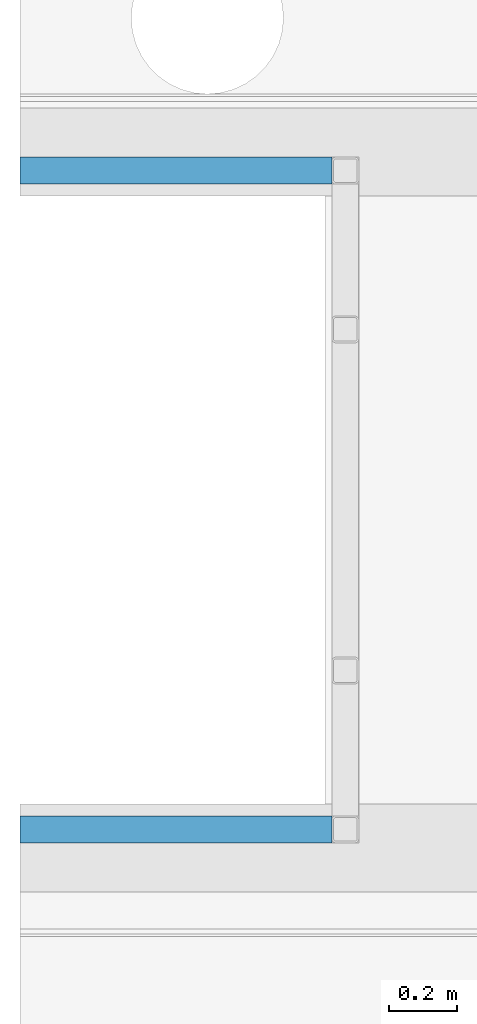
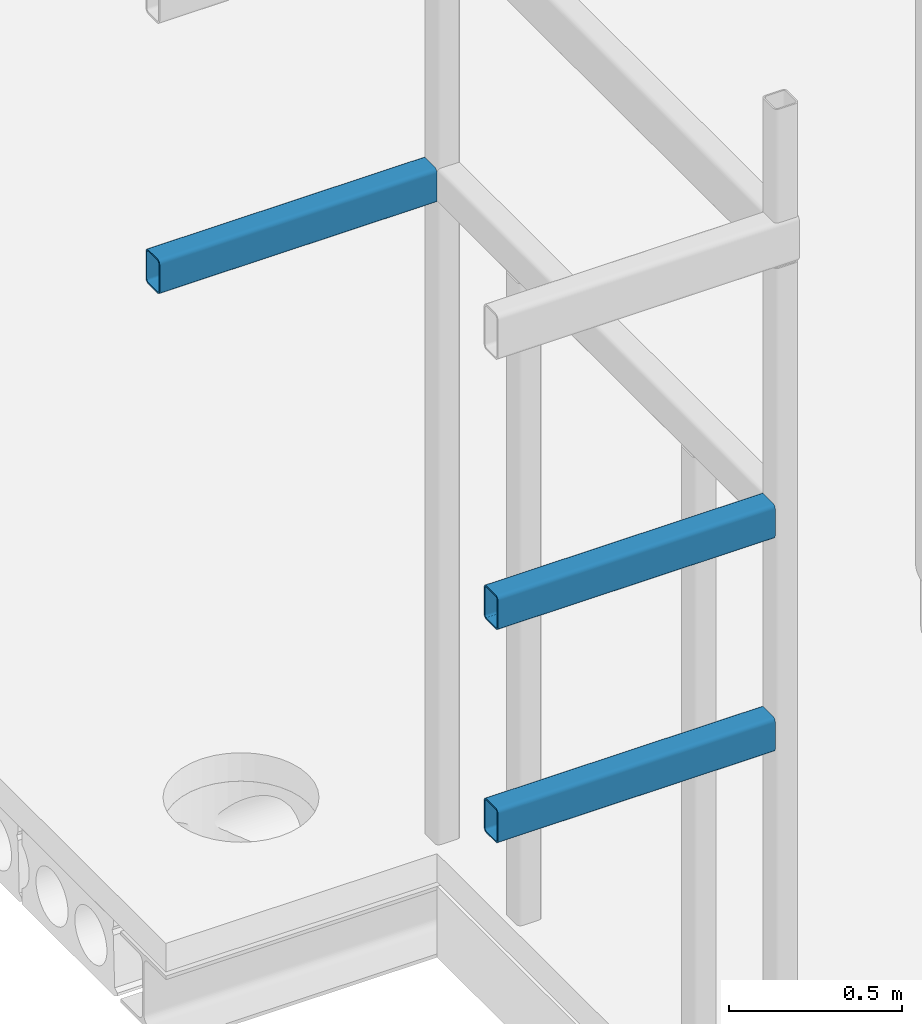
# One storey, part 30 of 34: 3 beams.
"""IFC2X3 building model written with IfcOpenShell, lengths in millimetres."""

from ifc_helpers import new_model, entity, si_unit, converted_unit, derived_unit, direction, frame, origin_with_axes, place, context, subcontext, project, spatial, faceted_brep, type_object, element, save


model = new_model("IFC2X3")

# Units and contexts
model_context = context("Model", 3, precision=0.01, world=frame((0.0, 4.29681676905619e-09, 0.0)), true_north=direction((4.01073788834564e-13, 1.0)))
plan_context = context("Plan", 3, precision=0.01, world=frame((0.0, 4.29681676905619e-09, 0.0)), true_north=direction((4.01073788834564e-13, 1.0)))
body_context = subcontext(model_context, "Body", "Model", "MODEL_VIEW")
ifc_project = project(units=[converted_unit("PLANEANGLEUNIT", "DEGREE", entity("IfcPositiveLengthMeasure", 0.0174532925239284), si_unit("PLANEANGLEUNIT", "RADIAN"), dimensions=[0, 0, 0, 0, 0, 0, 0]), si_unit("AREAUNIT", "SQUARE_METRE"), si_unit("LENGTHUNIT", "METRE", prefix="MILLI"), si_unit("MASSUNIT", "GRAM", prefix="KILO"), si_unit("POWERUNIT", "WATT"), si_unit("PRESSUREUNIT", "PASCAL"), si_unit("FORCEUNIT", "NEWTON", prefix="KILO"), si_unit("ELECTRICVOLTAGEUNIT", "VOLT"), si_unit("ELECTRICCURRENTUNIT", "AMPERE"), si_unit("THERMODYNAMICTEMPERATUREUNIT", "DEGREE_CELSIUS"), si_unit("TIMEUNIT", "SECOND"), si_unit("VOLUMEUNIT", "CUBIC_METRE"), derived_unit("LINEARVELOCITYUNIT", [(si_unit("LENGTHUNIT", "METRE"), 1), (si_unit("TIMEUNIT", "SECOND"), -1)]), derived_unit("VOLUMETRICFLOWRATEUNIT", [(si_unit("VOLUMEUNIT", "CUBIC_METRE"), 1), (si_unit("TIMEUNIT", "SECOND"), -1)]), derived_unit("THERMALTRANSMITTANCEUNIT", [(si_unit("POWERUNIT", "WATT"), 1), (si_unit("THERMODYNAMICTEMPERATUREUNIT", "KELVIN"), -1), (si_unit("AREAUNIT", "SQUARE_METRE"), -1)]), derived_unit("SOUNDPRESSUREUNIT", [(si_unit("PRESSUREUNIT", "PASCAL"), 1)])], contexts=[model_context, plan_context])

# Site, building, storey
site_placement = place(None, frame((0.0, -4.29681676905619e-09, 0.0), z_axis=(0.0, 0.0, 1.0), x_axis=(1.0, 0.0, 0.0)))
site = spatial("IfcSite", under=ifc_project, at=site_placement, Name="Gardermoen", CompositionType="ELEMENT")
building_placement = place(site_placement, frame((0.0, 4.29681676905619e-09, 0.0), z_axis=(0.0, 0.0, 1.0), x_axis=(1.0, 0.0, 0.0)))
building = spatial("IfcBuilding", under=site, at=building_placement, Name="TH", CompositionType="ELEMENT")
storey_placement = place(building_placement, origin_with_axes())
storey = spatial("IfcBuildingStorey", under=building, at=storey_placement, Name="F", CompositionType="ELEMENT", Elevation=0.0)

# Beams
beam_type = type_object("IfcBeamType", Name="RHS120*80*5", PredefinedType="NOTDEFINED")
beam_1_placement = place(storey_placement, frame((893539.999766, 480345.0, 212450.0), z_axis=(0.0, 0.0, 1.0), x_axis=(1.0, 0.0, 0.0)))
element("IfcBeam", 1, at=beam_1_placement, inside=storey, type_object=beam_type, Name="STÅLBJELKE", ObjectType="RHS120*80*5", context=body_context, shape_type="Brep", body=[
    faceted_brep([(1571.90640257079, -27.5, -55.0), (1571.90640257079, 27.5, -55.0), (2495.0, 27.5, -55.0), (2495.0, -27.5, -55.0), (1571.90640257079, 28.963177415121, -54.8558896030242), (2495.0, 28.963177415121, -54.8558896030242), (1571.90640257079, 30.3701257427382, -54.4290964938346), (2495.0, 30.3701257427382, -54.4290964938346), (1571.90640257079, 31.666776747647, -53.7360220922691), (2495.0, 31.666776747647, -53.7360220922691), (1571.90640257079, 32.8033008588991, -52.8033008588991), (2495.0, 32.8033008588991, -52.8033008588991), (1571.90640257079, 33.7360220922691, -51.666776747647), (2495.0, 33.7360220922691, -51.666776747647), (1571.90640257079, 34.4290964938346, -50.3701257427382), (2495.0, 34.4290964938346, -50.3701257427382), (1571.90640257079, 34.8558896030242, -48.963177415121), (2495.0, 34.8558896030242, -48.963177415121), (1571.90640257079, 35.0, -47.5), (2495.0, 35.0, -47.5), (1571.90640257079, 35.0, 47.5), (2495.0, 35.0, 47.5), (1571.90640257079, 34.8558896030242, 48.963177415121), (2495.0, 34.8558896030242, 48.963177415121), (1571.90640257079, 34.4290964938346, 50.3701257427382), (2495.0, 34.4290964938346, 50.3701257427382), (1571.90640257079, 33.7360220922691, 51.666776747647), (2495.0, 33.7360220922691, 51.666776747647), (1571.90640257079, 32.8033008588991, 52.8033008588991), (2495.0, 32.8033008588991, 52.8033008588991), (1571.90640257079, 31.666776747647, 53.7360220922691), (2495.0, 31.666776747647, 53.7360220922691), (1571.90640257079, 30.3701257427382, 54.4290964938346), (2495.0, 30.3701257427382, 54.4290964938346), (1571.90640257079, 28.963177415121, 54.8558896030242), (2495.0, 28.963177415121, 54.8558896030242), (1571.90640257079, 27.5, 55.0), (2495.0, 27.5, 55.0), (1571.90640257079, -27.5, 55.0), (2495.0, -27.5, 55.0), (1571.90640257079, -28.963177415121, 54.8558896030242), (2495.0, -28.963177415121, 54.8558896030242), (1571.90640257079, -30.3701257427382, 54.4290964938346), (2495.0, -30.3701257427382, 54.4290964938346), (1571.90640257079, -31.666776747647, 53.7360220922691), (2495.0, -31.666776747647, 53.7360220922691), (1571.90640257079, -32.8033008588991, 52.8033008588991), (2495.0, -32.8033008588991, 52.8033008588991), (1571.90640257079, -33.7360220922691, 51.666776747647), (2495.0, -33.7360220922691, 51.666776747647), (1571.90640257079, -34.4290964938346, 50.3701257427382), (2495.0, -34.4290964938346, 50.3701257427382), (1571.90640257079, -34.8558896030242, 48.963177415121), (2495.0, -34.8558896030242, 48.963177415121), (1571.90640257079, -35.0, 47.5), (2495.0, -35.0, 47.5), (1571.90640257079, -35.0, -47.5), (2495.0, -35.0, -47.5), (1571.90640257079, -34.8558896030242, -48.963177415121), (2495.0, -34.8558896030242, -48.963177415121), (1571.90640257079, -34.4290964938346, -50.3701257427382), (2495.0, -34.4290964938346, -50.3701257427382), (1571.90640257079, -33.7360220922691, -51.666776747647), (2495.0, -33.7360220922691, -51.666776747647), (1571.90640257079, -32.8033008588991, -52.8033008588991), (2495.0, -32.8033008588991, -52.8033008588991), (1571.90640257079, -31.666776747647, -53.7360220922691), (2495.0, -31.666776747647, -53.7360220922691), (1571.90640257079, -30.3701257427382, -54.4290964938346), (2495.0, -30.3701257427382, -54.4290964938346), (1571.90640257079, -28.963177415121, -54.8558896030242), (2495.0, -28.963177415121, -54.8558896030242), (1571.90640257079, 27.5, -60.0), (1571.90640257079, -27.5, -60.0), (2495.0, -27.5, -60.0), (2495.0, 27.5, -60.0), (1571.90640257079, -29.9386290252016, -59.7598160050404), (2495.0, -29.9386290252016, -59.7598160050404), (1571.90640257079, -32.2835429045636, -59.0484941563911), (2495.0, -32.2835429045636, -59.0484941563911), (1571.90640257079, -34.444627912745, -57.8933701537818), (2495.0, -34.444627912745, -57.8933701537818), (1571.90640257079, -36.3388347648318, -56.3388347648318), (2495.0, -36.3388347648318, -56.3388347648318), (1571.90640257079, -37.8933701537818, -54.444627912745), (2495.0, -37.8933701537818, -54.444627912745), (1571.90640257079, -39.0484941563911, -52.2835429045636), (2495.0, -39.0484941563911, -52.2835429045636), (1571.90640257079, -39.7598160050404, -49.9386290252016), (2495.0, -39.7598160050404, -49.9386290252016), (1571.90640257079, -40.0, -47.5), (2495.0, -40.0, -47.5), (1571.90640257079, -40.0, 47.5), (2495.0, -40.0, 47.5), (1571.90640257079, -39.7598160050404, 49.9386290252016), (2495.0, -39.7598160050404, 49.9386290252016), (1571.90640257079, -39.0484941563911, 52.2835429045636), (2495.0, -39.0484941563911, 52.2835429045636), (1571.90640257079, -37.8933701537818, 54.444627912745), (2495.0, -37.8933701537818, 54.444627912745), (1571.90640257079, -36.3388347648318, 56.3388347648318), (2495.0, -36.3388347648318, 56.3388347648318), (1571.90640257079, -34.444627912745, 57.8933701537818), (2495.0, -34.444627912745, 57.8933701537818), (1571.90640257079, -32.2835429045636, 59.0484941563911), (2495.0, -32.2835429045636, 59.0484941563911), (1571.90640257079, -29.9386290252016, 59.7598160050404), (2495.0, -29.9386290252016, 59.7598160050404), (1571.90640257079, -27.5, 60.0), (2495.0, -27.5, 60.0), (1571.90640257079, 27.5, 60.0), (2495.0, 27.5, 60.0), (1571.90640257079, 29.9386290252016, 59.7598160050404), (2495.0, 29.9386290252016, 59.7598160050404), (1571.90640257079, 32.2835429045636, 59.0484941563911), (2495.0, 32.2835429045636, 59.0484941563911), (1571.90640257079, 34.444627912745, 57.8933701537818), (2495.0, 34.444627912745, 57.8933701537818), (1571.90640257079, 36.3388347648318, 56.3388347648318), (2495.0, 36.3388347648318, 56.3388347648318), (1571.90640257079, 37.8933701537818, 54.444627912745), (2495.0, 37.8933701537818, 54.444627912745), (1571.90640257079, 39.0484941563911, 52.2835429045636), (2495.0, 39.0484941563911, 52.2835429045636), (1571.90640257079, 39.7598160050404, 49.9386290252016), (2495.0, 39.7598160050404, 49.9386290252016), (1571.90640257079, 40.0, 47.5), (2495.0, 40.0, 47.5), (1571.90640257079, 40.0, -47.5), (2495.0, 40.0, -47.5), (1571.90640257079, 39.7598160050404, -49.9386290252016), (2495.0, 39.7598160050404, -49.9386290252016), (1571.90640257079, 39.0484941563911, -52.2835429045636), (2495.0, 39.0484941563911, -52.2835429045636), (1571.90640257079, 37.8933701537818, -54.444627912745), (2495.0, 37.8933701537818, -54.444627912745), (1571.90640257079, 36.3388347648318, -56.3388347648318), (2495.0, 36.3388347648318, -56.3388347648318), (1571.90640257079, 34.444627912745, -57.8933701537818), (2495.0, 34.444627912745, -57.8933701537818), (1571.90640257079, 32.2835429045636, -59.0484941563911), (2495.0, 32.2835429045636, -59.0484941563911), (1571.90640257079, 29.9386290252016, -59.7598160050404), (2495.0, 29.9386290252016, -59.7598160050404)], [[[0, 1, 2, 3]], [[1, 4, 5, 2]], [[4, 6, 7, 5]], [[6, 8, 9, 7]], [[8, 10, 11, 9]], [[10, 12, 13, 11]], [[12, 14, 15, 13]], [[14, 16, 17, 15]], [[16, 18, 19, 17]], [[18, 20, 21, 19]], [[20, 22, 23, 21]], [[22, 24, 25, 23]], [[24, 26, 27, 25]], [[26, 28, 29, 27]], [[28, 30, 31, 29]], [[30, 32, 33, 31]], [[32, 34, 35, 33]], [[34, 36, 37, 35]], [[36, 38, 39, 37]], [[38, 40, 41, 39]], [[40, 42, 43, 41]], [[42, 44, 45, 43]], [[44, 46, 47, 45]], [[46, 48, 49, 47]], [[48, 50, 51, 49]], [[50, 52, 53, 51]], [[52, 54, 55, 53]], [[54, 56, 57, 55]], [[56, 58, 59, 57]], [[58, 60, 61, 59]], [[60, 62, 63, 61]], [[62, 64, 65, 63]], [[64, 66, 67, 65]], [[66, 68, 69, 67]], [[68, 70, 71, 69]], [[70, 0, 3, 71]], [[72, 73, 74, 75]], [[73, 76, 77, 74]], [[76, 78, 79, 77]], [[78, 80, 81, 79]], [[80, 82, 83, 81]], [[82, 84, 85, 83]], [[84, 86, 87, 85]], [[86, 88, 89, 87]], [[88, 90, 91, 89]], [[90, 92, 93, 91]], [[92, 94, 95, 93]], [[94, 96, 97, 95]], [[96, 98, 99, 97]], [[98, 100, 101, 99]], [[100, 102, 103, 101]], [[102, 104, 105, 103]], [[104, 106, 107, 105]], [[106, 108, 109, 107]], [[108, 110, 111, 109]], [[110, 112, 113, 111]], [[112, 114, 115, 113]], [[114, 116, 117, 115]], [[116, 118, 119, 117]], [[118, 120, 121, 119]], [[120, 122, 123, 121]], [[122, 124, 125, 123]], [[124, 126, 127, 125]], [[126, 128, 129, 127]], [[128, 130, 131, 129]], [[130, 132, 133, 131]], [[132, 134, 135, 133]], [[134, 136, 137, 135]], [[136, 138, 139, 137]], [[138, 140, 141, 139]], [[140, 142, 143, 141]], [[142, 72, 75, 143]], [[75, 74, 77, 79, 81, 83, 85, 87, 89, 91, 93, 95, 97, 99, 101, 103, 105, 107, 109, 111, 113, 115, 117, 119, 121, 123, 125, 127, 129, 131, 133, 135, 137, 139, 141, 143], [3, 2, 5, 7, 9, 11, 13, 15, 17, 19, 21, 23, 25, 27, 29, 31, 33, 35, 37, 39, 41, 43, 45, 47, 49, 51, 53, 55, 57, 59, 61, 63, 65, 67, 69, 71]], [[142, 140, 138, 136, 134, 132, 130, 128, 126, 124, 122, 120, 118, 116, 114, 112, 110, 108, 106, 104, 102, 100, 98, 96, 94, 92, 90, 88, 86, 84, 82, 80, 78, 76, 73, 72], [70, 68, 66, 64, 62, 60, 58, 56, 54, 52, 50, 48, 46, 44, 42, 40, 38, 36, 34, 32, 30, 28, 26, 24, 22, 20, 18, 16, 14, 12, 10, 8, 6, 4, 1, 0]]], orient=[[False], [False], [False], [False], [False], [False], [False], [False], [False], [False], [False], [False], [False], [False], [False], [False], [False], [False], [False], [False], [False], [False], [False], [False], [False], [False], [False], [False], [False], [False], [False], [False], [False], [False], [False], [False], [False], [False], [False], [False], [False], [False], [False], [False], [False], [False], [False], [False], [False], [False], [False], [False], [False], [False], [False], [False], [False], [False], [False], [False], [False], [False], [False], [False], [False], [False], [False], [False], [False], [False], [False], [False], [False, False], [False, False]]),
])
beam_2_placement = place(storey_placement, frame((893539.999766, 478395.0, 212450.0), z_axis=(0.0, 0.0, 1.0), x_axis=(1.0, 0.0, 0.0)))
element("IfcBeam", 2, at=beam_2_placement, inside=storey, type_object=beam_type, Name="STÅLBJELKE", ObjectType="RHS120*80*5", context=body_context, shape_type="Brep", body=[
    faceted_brep([(1571.90640257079, -27.5, -55.0), (1571.90640257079, 27.5, -55.0), (2495.0, 27.5, -55.0), (2495.0, -27.5, -55.0), (1571.90640257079, 28.963177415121, -54.8558896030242), (2495.0, 28.963177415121, -54.8558896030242), (1571.90640257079, 30.3701257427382, -54.4290964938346), (2495.0, 30.3701257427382, -54.4290964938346), (1571.90640257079, 31.666776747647, -53.7360220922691), (2495.0, 31.666776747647, -53.7360220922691), (1571.90640257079, 32.8033008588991, -52.8033008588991), (2495.0, 32.8033008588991, -52.8033008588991), (1571.90640257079, 33.7360220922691, -51.666776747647), (2495.0, 33.7360220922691, -51.666776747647), (1571.90640257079, 34.4290964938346, -50.3701257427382), (2495.0, 34.4290964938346, -50.3701257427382), (1571.90640257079, 34.8558896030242, -48.963177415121), (2495.0, 34.8558896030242, -48.963177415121), (1571.90640257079, 35.0, -47.5), (2495.0, 35.0, -47.5), (1571.90640257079, 35.0, 47.5), (2495.0, 35.0, 47.5), (1571.90640257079, 34.8558896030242, 48.963177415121), (2495.0, 34.8558896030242, 48.963177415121), (1571.90640257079, 34.4290964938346, 50.3701257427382), (2495.0, 34.4290964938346, 50.3701257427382), (1571.90640257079, 33.7360220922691, 51.666776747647), (2495.0, 33.7360220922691, 51.666776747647), (1571.90640257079, 32.8033008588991, 52.8033008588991), (2495.0, 32.8033008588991, 52.8033008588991), (1571.90640257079, 31.666776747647, 53.7360220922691), (2495.0, 31.666776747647, 53.7360220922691), (1571.90640257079, 30.3701257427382, 54.4290964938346), (2495.0, 30.3701257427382, 54.4290964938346), (1571.90640257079, 28.963177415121, 54.8558896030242), (2495.0, 28.963177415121, 54.8558896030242), (1571.90640257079, 27.5, 55.0), (2495.0, 27.5, 55.0), (1571.90640257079, -27.5, 55.0), (2495.0, -27.5, 55.0), (1571.90640257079, -28.963177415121, 54.8558896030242), (2495.0, -28.963177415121, 54.8558896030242), (1571.90640257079, -30.3701257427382, 54.4290964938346), (2495.0, -30.3701257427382, 54.4290964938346), (1571.90640257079, -31.666776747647, 53.7360220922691), (2495.0, -31.666776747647, 53.7360220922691), (1571.90640257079, -32.8033008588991, 52.8033008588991), (2495.0, -32.8033008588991, 52.8033008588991), (1571.90640257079, -33.7360220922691, 51.666776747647), (2495.0, -33.7360220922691, 51.666776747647), (1571.90640257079, -34.4290964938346, 50.3701257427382), (2495.0, -34.4290964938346, 50.3701257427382), (1571.90640257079, -34.8558896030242, 48.963177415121), (2495.0, -34.8558896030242, 48.963177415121), (1571.90640257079, -35.0, 47.5), (2495.0, -35.0, 47.5), (1571.90640257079, -35.0, -47.5), (2495.0, -35.0, -47.5), (1571.90640257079, -34.8558896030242, -48.963177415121), (2495.0, -34.8558896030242, -48.963177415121), (1571.90640257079, -34.4290964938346, -50.3701257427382), (2495.0, -34.4290964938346, -50.3701257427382), (1571.90640257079, -33.7360220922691, -51.666776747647), (2495.0, -33.7360220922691, -51.666776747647), (1571.90640257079, -32.8033008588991, -52.8033008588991), (2495.0, -32.8033008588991, -52.8033008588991), (1571.90640257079, -31.666776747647, -53.7360220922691), (2495.0, -31.666776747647, -53.7360220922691), (1571.90640257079, -30.3701257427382, -54.4290964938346), (2495.0, -30.3701257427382, -54.4290964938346), (1571.90640257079, -28.963177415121, -54.8558896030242), (2495.0, -28.963177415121, -54.8558896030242), (1571.90640257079, 27.5, -60.0), (1571.90640257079, -27.5, -60.0), (2495.0, -27.5, -60.0), (2495.0, 27.5, -60.0), (1571.90640257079, -29.9386290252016, -59.7598160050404), (2495.0, -29.9386290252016, -59.7598160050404), (1571.90640257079, -32.2835429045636, -59.0484941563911), (2495.0, -32.2835429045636, -59.0484941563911), (1571.90640257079, -34.444627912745, -57.8933701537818), (2495.0, -34.444627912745, -57.8933701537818), (1571.90640257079, -36.3388347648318, -56.3388347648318), (2495.0, -36.3388347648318, -56.3388347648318), (1571.90640257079, -37.8933701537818, -54.444627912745), (2495.0, -37.8933701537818, -54.444627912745), (1571.90640257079, -39.0484941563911, -52.2835429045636), (2495.0, -39.0484941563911, -52.2835429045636), (1571.90640257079, -39.7598160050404, -49.9386290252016), (2495.0, -39.7598160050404, -49.9386290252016), (1571.90640257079, -40.0, -47.5), (2495.0, -40.0, -47.5), (1571.90640257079, -40.0, 47.5), (2495.0, -40.0, 47.5), (1571.90640257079, -39.7598160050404, 49.9386290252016), (2495.0, -39.7598160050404, 49.9386290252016), (1571.90640257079, -39.0484941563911, 52.2835429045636), (2495.0, -39.0484941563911, 52.2835429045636), (1571.90640257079, -37.8933701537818, 54.444627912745), (2495.0, -37.8933701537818, 54.444627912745), (1571.90640257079, -36.3388347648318, 56.3388347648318), (2495.0, -36.3388347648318, 56.3388347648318), (1571.90640257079, -34.444627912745, 57.8933701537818), (2495.0, -34.444627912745, 57.8933701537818), (1571.90640257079, -32.2835429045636, 59.0484941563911), (2495.0, -32.2835429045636, 59.0484941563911), (1571.90640257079, -29.9386290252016, 59.7598160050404), (2495.0, -29.9386290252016, 59.7598160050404), (1571.90640257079, -27.5, 60.0), (2495.0, -27.5, 60.0), (1571.90640257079, 27.5, 60.0), (2495.0, 27.5, 60.0), (1571.90640257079, 29.9386290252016, 59.7598160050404), (2495.0, 29.9386290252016, 59.7598160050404), (1571.90640257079, 32.2835429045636, 59.0484941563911), (2495.0, 32.2835429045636, 59.0484941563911), (1571.90640257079, 34.444627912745, 57.8933701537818), (2495.0, 34.444627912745, 57.8933701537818), (1571.90640257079, 36.3388347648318, 56.3388347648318), (2495.0, 36.3388347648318, 56.3388347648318), (1571.90640257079, 37.8933701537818, 54.444627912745), (2495.0, 37.8933701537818, 54.444627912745), (1571.90640257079, 39.0484941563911, 52.2835429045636), (2495.0, 39.0484941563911, 52.2835429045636), (1571.90640257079, 39.7598160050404, 49.9386290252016), (2495.0, 39.7598160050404, 49.9386290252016), (1571.90640257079, 40.0, 47.5), (2495.0, 40.0, 47.5), (1571.90640257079, 40.0, -47.5), (2495.0, 40.0, -47.5), (1571.90640257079, 39.7598160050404, -49.9386290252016), (2495.0, 39.7598160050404, -49.9386290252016), (1571.90640257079, 39.0484941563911, -52.2835429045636), (2495.0, 39.0484941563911, -52.2835429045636), (1571.90640257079, 37.8933701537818, -54.444627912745), (2495.0, 37.8933701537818, -54.444627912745), (1571.90640257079, 36.3388347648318, -56.3388347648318), (2495.0, 36.3388347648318, -56.3388347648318), (1571.90640257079, 34.444627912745, -57.8933701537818), (2495.0, 34.444627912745, -57.8933701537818), (1571.90640257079, 32.2835429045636, -59.0484941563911), (2495.0, 32.2835429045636, -59.0484941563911), (1571.90640257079, 29.9386290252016, -59.7598160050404), (2495.0, 29.9386290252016, -59.7598160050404)], [[[0, 1, 2, 3]], [[1, 4, 5, 2]], [[4, 6, 7, 5]], [[6, 8, 9, 7]], [[8, 10, 11, 9]], [[10, 12, 13, 11]], [[12, 14, 15, 13]], [[14, 16, 17, 15]], [[16, 18, 19, 17]], [[18, 20, 21, 19]], [[20, 22, 23, 21]], [[22, 24, 25, 23]], [[24, 26, 27, 25]], [[26, 28, 29, 27]], [[28, 30, 31, 29]], [[30, 32, 33, 31]], [[32, 34, 35, 33]], [[34, 36, 37, 35]], [[36, 38, 39, 37]], [[38, 40, 41, 39]], [[40, 42, 43, 41]], [[42, 44, 45, 43]], [[44, 46, 47, 45]], [[46, 48, 49, 47]], [[48, 50, 51, 49]], [[50, 52, 53, 51]], [[52, 54, 55, 53]], [[54, 56, 57, 55]], [[56, 58, 59, 57]], [[58, 60, 61, 59]], [[60, 62, 63, 61]], [[62, 64, 65, 63]], [[64, 66, 67, 65]], [[66, 68, 69, 67]], [[68, 70, 71, 69]], [[70, 0, 3, 71]], [[72, 73, 74, 75]], [[73, 76, 77, 74]], [[76, 78, 79, 77]], [[78, 80, 81, 79]], [[80, 82, 83, 81]], [[82, 84, 85, 83]], [[84, 86, 87, 85]], [[86, 88, 89, 87]], [[88, 90, 91, 89]], [[90, 92, 93, 91]], [[92, 94, 95, 93]], [[94, 96, 97, 95]], [[96, 98, 99, 97]], [[98, 100, 101, 99]], [[100, 102, 103, 101]], [[102, 104, 105, 103]], [[104, 106, 107, 105]], [[106, 108, 109, 107]], [[108, 110, 111, 109]], [[110, 112, 113, 111]], [[112, 114, 115, 113]], [[114, 116, 117, 115]], [[116, 118, 119, 117]], [[118, 120, 121, 119]], [[120, 122, 123, 121]], [[122, 124, 125, 123]], [[124, 126, 127, 125]], [[126, 128, 129, 127]], [[128, 130, 131, 129]], [[130, 132, 133, 131]], [[132, 134, 135, 133]], [[134, 136, 137, 135]], [[136, 138, 139, 137]], [[138, 140, 141, 139]], [[140, 142, 143, 141]], [[142, 72, 75, 143]], [[75, 74, 77, 79, 81, 83, 85, 87, 89, 91, 93, 95, 97, 99, 101, 103, 105, 107, 109, 111, 113, 115, 117, 119, 121, 123, 125, 127, 129, 131, 133, 135, 137, 139, 141, 143], [3, 2, 5, 7, 9, 11, 13, 15, 17, 19, 21, 23, 25, 27, 29, 31, 33, 35, 37, 39, 41, 43, 45, 47, 49, 51, 53, 55, 57, 59, 61, 63, 65, 67, 69, 71]], [[142, 140, 138, 136, 134, 132, 130, 128, 126, 124, 122, 120, 118, 116, 114, 112, 110, 108, 106, 104, 102, 100, 98, 96, 94, 92, 90, 88, 86, 84, 82, 80, 78, 76, 73, 72], [70, 68, 66, 64, 62, 60, 58, 56, 54, 52, 50, 48, 46, 44, 42, 40, 38, 36, 34, 32, 30, 28, 26, 24, 22, 20, 18, 16, 14, 12, 10, 8, 6, 4, 1, 0]]], orient=[[False], [False], [False], [False], [False], [False], [False], [False], [False], [False], [False], [False], [False], [False], [False], [False], [False], [False], [False], [False], [False], [False], [False], [False], [False], [False], [False], [False], [False], [False], [False], [False], [False], [False], [False], [False], [False], [False], [False], [False], [False], [False], [False], [False], [False], [False], [False], [False], [False], [False], [False], [False], [False], [False], [False], [False], [False], [False], [False], [False], [False], [False], [False], [False], [False], [False], [False], [False], [False], [False], [False], [False], [False, False], [False, False]]),
])
beam_3_placement = place(storey_placement, frame((893539.999766, 478395.0, 211700.0), z_axis=(0.0, 0.0, 1.0), x_axis=(1.0, 0.0, 0.0)))
element("IfcBeam", 3, at=beam_3_placement, inside=storey, type_object=beam_type, Name="STÅLBJELKE", ObjectType="RHS120*80*5", context=body_context, shape_type="Brep", body=[
    faceted_brep([(1571.90640257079, -27.5, -55.0), (1571.90640257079, 27.5, -55.0), (2495.0, 27.5, -55.0), (2495.0, -27.5, -55.0), (1571.90640257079, 28.963177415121, -54.8558896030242), (2495.0, 28.963177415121, -54.8558896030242), (1571.90640257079, 30.3701257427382, -54.4290964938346), (2495.0, 30.3701257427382, -54.4290964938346), (1571.90640257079, 31.666776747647, -53.7360220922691), (2495.0, 31.666776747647, -53.7360220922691), (1571.90640257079, 32.8033008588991, -52.8033008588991), (2495.0, 32.8033008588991, -52.8033008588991), (1571.90640257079, 33.7360220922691, -51.666776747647), (2495.0, 33.7360220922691, -51.666776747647), (1571.90640257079, 34.4290964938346, -50.3701257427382), (2495.0, 34.4290964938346, -50.3701257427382), (1571.90640257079, 34.8558896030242, -48.963177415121), (2495.0, 34.8558896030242, -48.963177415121), (1571.90640257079, 35.0, -47.5), (2495.0, 35.0, -47.5), (1571.90640257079, 35.0, 47.5), (2495.0, 35.0, 47.5), (1571.90640257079, 34.8558896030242, 48.963177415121), (2495.0, 34.8558896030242, 48.963177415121), (1571.90640257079, 34.4290964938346, 50.3701257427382), (2495.0, 34.4290964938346, 50.3701257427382), (1571.90640257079, 33.7360220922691, 51.666776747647), (2495.0, 33.7360220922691, 51.666776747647), (1571.90640257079, 32.8033008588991, 52.8033008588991), (2495.0, 32.8033008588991, 52.8033008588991), (1571.90640257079, 31.666776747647, 53.7360220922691), (2495.0, 31.666776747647, 53.7360220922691), (1571.90640257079, 30.3701257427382, 54.4290964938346), (2495.0, 30.3701257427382, 54.4290964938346), (1571.90640257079, 28.963177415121, 54.8558896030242), (2495.0, 28.963177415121, 54.8558896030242), (1571.90640257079, 27.5, 55.0), (2495.0, 27.5, 55.0), (1571.90640257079, -27.5, 55.0), (2495.0, -27.5, 55.0), (1571.90640257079, -28.963177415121, 54.8558896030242), (2495.0, -28.963177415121, 54.8558896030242), (1571.90640257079, -30.3701257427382, 54.4290964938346), (2495.0, -30.3701257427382, 54.4290964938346), (1571.90640257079, -31.666776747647, 53.7360220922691), (2495.0, -31.666776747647, 53.7360220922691), (1571.90640257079, -32.8033008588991, 52.8033008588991), (2495.0, -32.8033008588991, 52.8033008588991), (1571.90640257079, -33.7360220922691, 51.666776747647), (2495.0, -33.7360220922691, 51.666776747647), (1571.90640257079, -34.4290964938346, 50.3701257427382), (2495.0, -34.4290964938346, 50.3701257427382), (1571.90640257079, -34.8558896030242, 48.963177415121), (2495.0, -34.8558896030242, 48.963177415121), (1571.90640257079, -35.0, 47.5), (2495.0, -35.0, 47.5), (1571.90640257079, -35.0, -47.5), (2495.0, -35.0, -47.5), (1571.90640257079, -34.8558896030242, -48.963177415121), (2495.0, -34.8558896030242, -48.963177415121), (1571.90640257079, -34.4290964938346, -50.3701257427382), (2495.0, -34.4290964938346, -50.3701257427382), (1571.90640257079, -33.7360220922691, -51.666776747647), (2495.0, -33.7360220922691, -51.666776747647), (1571.90640257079, -32.8033008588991, -52.8033008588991), (2495.0, -32.8033008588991, -52.8033008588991), (1571.90640257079, -31.666776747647, -53.7360220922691), (2495.0, -31.666776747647, -53.7360220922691), (1571.90640257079, -30.3701257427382, -54.4290964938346), (2495.0, -30.3701257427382, -54.4290964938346), (1571.90640257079, -28.963177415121, -54.8558896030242), (2495.0, -28.963177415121, -54.8558896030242), (1571.90640257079, 27.5, -60.0), (1571.90640257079, -27.5, -60.0), (2495.0, -27.5, -60.0), (2495.0, 27.5, -60.0), (1571.90640257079, -29.9386290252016, -59.7598160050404), (2495.0, -29.9386290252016, -59.7598160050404), (1571.90640257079, -32.2835429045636, -59.0484941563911), (2495.0, -32.2835429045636, -59.0484941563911), (1571.90640257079, -34.444627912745, -57.8933701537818), (2495.0, -34.444627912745, -57.8933701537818), (1571.90640257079, -36.3388347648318, -56.3388347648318), (2495.0, -36.3388347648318, -56.3388347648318), (1571.90640257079, -37.8933701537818, -54.444627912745), (2495.0, -37.8933701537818, -54.444627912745), (1571.90640257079, -39.0484941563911, -52.2835429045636), (2495.0, -39.0484941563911, -52.2835429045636), (1571.90640257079, -39.7598160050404, -49.9386290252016), (2495.0, -39.7598160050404, -49.9386290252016), (1571.90640257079, -40.0, -47.5), (2495.0, -40.0, -47.5), (1571.90640257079, -40.0, 47.5), (2495.0, -40.0, 47.5), (1571.90640257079, -39.7598160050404, 49.9386290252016), (2495.0, -39.7598160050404, 49.9386290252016), (1571.90640257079, -39.0484941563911, 52.2835429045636), (2495.0, -39.0484941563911, 52.2835429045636), (1571.90640257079, -37.8933701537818, 54.444627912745), (2495.0, -37.8933701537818, 54.444627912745), (1571.90640257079, -36.3388347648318, 56.3388347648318), (2495.0, -36.3388347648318, 56.3388347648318), (1571.90640257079, -34.444627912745, 57.8933701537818), (2495.0, -34.444627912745, 57.8933701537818), (1571.90640257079, -32.2835429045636, 59.0484941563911), (2495.0, -32.2835429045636, 59.0484941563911), (1571.90640257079, -29.9386290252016, 59.7598160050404), (2495.0, -29.9386290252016, 59.7598160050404), (1571.90640257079, -27.5, 60.0), (2495.0, -27.5, 60.0), (1571.90640257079, 27.5, 60.0), (2495.0, 27.5, 60.0), (1571.90640257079, 29.9386290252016, 59.7598160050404), (2495.0, 29.9386290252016, 59.7598160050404), (1571.90640257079, 32.2835429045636, 59.0484941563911), (2495.0, 32.2835429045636, 59.0484941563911), (1571.90640257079, 34.444627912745, 57.8933701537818), (2495.0, 34.444627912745, 57.8933701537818), (1571.90640257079, 36.3388347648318, 56.3388347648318), (2495.0, 36.3388347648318, 56.3388347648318), (1571.90640257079, 37.8933701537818, 54.444627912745), (2495.0, 37.8933701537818, 54.444627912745), (1571.90640257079, 39.0484941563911, 52.2835429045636), (2495.0, 39.0484941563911, 52.2835429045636), (1571.90640257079, 39.7598160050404, 49.9386290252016), (2495.0, 39.7598160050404, 49.9386290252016), (1571.90640257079, 40.0, 47.5), (2495.0, 40.0, 47.5), (1571.90640257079, 40.0, -47.5), (2495.0, 40.0, -47.5), (1571.90640257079, 39.7598160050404, -49.9386290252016), (2495.0, 39.7598160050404, -49.9386290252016), (1571.90640257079, 39.0484941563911, -52.2835429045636), (2495.0, 39.0484941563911, -52.2835429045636), (1571.90640257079, 37.8933701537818, -54.444627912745), (2495.0, 37.8933701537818, -54.444627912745), (1571.90640257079, 36.3388347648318, -56.3388347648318), (2495.0, 36.3388347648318, -56.3388347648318), (1571.90640257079, 34.444627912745, -57.8933701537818), (2495.0, 34.444627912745, -57.8933701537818), (1571.90640257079, 32.2835429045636, -59.0484941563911), (2495.0, 32.2835429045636, -59.0484941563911), (1571.90640257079, 29.9386290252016, -59.7598160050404), (2495.0, 29.9386290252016, -59.7598160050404)], [[[0, 1, 2, 3]], [[1, 4, 5, 2]], [[4, 6, 7, 5]], [[6, 8, 9, 7]], [[8, 10, 11, 9]], [[10, 12, 13, 11]], [[12, 14, 15, 13]], [[14, 16, 17, 15]], [[16, 18, 19, 17]], [[18, 20, 21, 19]], [[20, 22, 23, 21]], [[22, 24, 25, 23]], [[24, 26, 27, 25]], [[26, 28, 29, 27]], [[28, 30, 31, 29]], [[30, 32, 33, 31]], [[32, 34, 35, 33]], [[34, 36, 37, 35]], [[36, 38, 39, 37]], [[38, 40, 41, 39]], [[40, 42, 43, 41]], [[42, 44, 45, 43]], [[44, 46, 47, 45]], [[46, 48, 49, 47]], [[48, 50, 51, 49]], [[50, 52, 53, 51]], [[52, 54, 55, 53]], [[54, 56, 57, 55]], [[56, 58, 59, 57]], [[58, 60, 61, 59]], [[60, 62, 63, 61]], [[62, 64, 65, 63]], [[64, 66, 67, 65]], [[66, 68, 69, 67]], [[68, 70, 71, 69]], [[70, 0, 3, 71]], [[72, 73, 74, 75]], [[73, 76, 77, 74]], [[76, 78, 79, 77]], [[78, 80, 81, 79]], [[80, 82, 83, 81]], [[82, 84, 85, 83]], [[84, 86, 87, 85]], [[86, 88, 89, 87]], [[88, 90, 91, 89]], [[90, 92, 93, 91]], [[92, 94, 95, 93]], [[94, 96, 97, 95]], [[96, 98, 99, 97]], [[98, 100, 101, 99]], [[100, 102, 103, 101]], [[102, 104, 105, 103]], [[104, 106, 107, 105]], [[106, 108, 109, 107]], [[108, 110, 111, 109]], [[110, 112, 113, 111]], [[112, 114, 115, 113]], [[114, 116, 117, 115]], [[116, 118, 119, 117]], [[118, 120, 121, 119]], [[120, 122, 123, 121]], [[122, 124, 125, 123]], [[124, 126, 127, 125]], [[126, 128, 129, 127]], [[128, 130, 131, 129]], [[130, 132, 133, 131]], [[132, 134, 135, 133]], [[134, 136, 137, 135]], [[136, 138, 139, 137]], [[138, 140, 141, 139]], [[140, 142, 143, 141]], [[142, 72, 75, 143]], [[75, 74, 77, 79, 81, 83, 85, 87, 89, 91, 93, 95, 97, 99, 101, 103, 105, 107, 109, 111, 113, 115, 117, 119, 121, 123, 125, 127, 129, 131, 133, 135, 137, 139, 141, 143], [3, 2, 5, 7, 9, 11, 13, 15, 17, 19, 21, 23, 25, 27, 29, 31, 33, 35, 37, 39, 41, 43, 45, 47, 49, 51, 53, 55, 57, 59, 61, 63, 65, 67, 69, 71]], [[142, 140, 138, 136, 134, 132, 130, 128, 126, 124, 122, 120, 118, 116, 114, 112, 110, 108, 106, 104, 102, 100, 98, 96, 94, 92, 90, 88, 86, 84, 82, 80, 78, 76, 73, 72], [70, 68, 66, 64, 62, 60, 58, 56, 54, 52, 50, 48, 46, 44, 42, 40, 38, 36, 34, 32, 30, 28, 26, 24, 22, 20, 18, 16, 14, 12, 10, 8, 6, 4, 1, 0]]], orient=[[False], [False], [False], [False], [False], [False], [False], [False], [False], [False], [False], [False], [False], [False], [False], [False], [False], [False], [False], [False], [False], [False], [False], [False], [False], [False], [False], [False], [False], [False], [False], [False], [False], [False], [False], [False], [False], [False], [False], [False], [False], [False], [False], [False], [False], [False], [False], [False], [False], [False], [False], [False], [False], [False], [False], [False], [False], [False], [False], [False], [False], [False], [False], [False], [False], [False], [False], [False], [False], [False], [False], [False], [False, False], [False, False]]),
])

save(model, "model.ifc")
